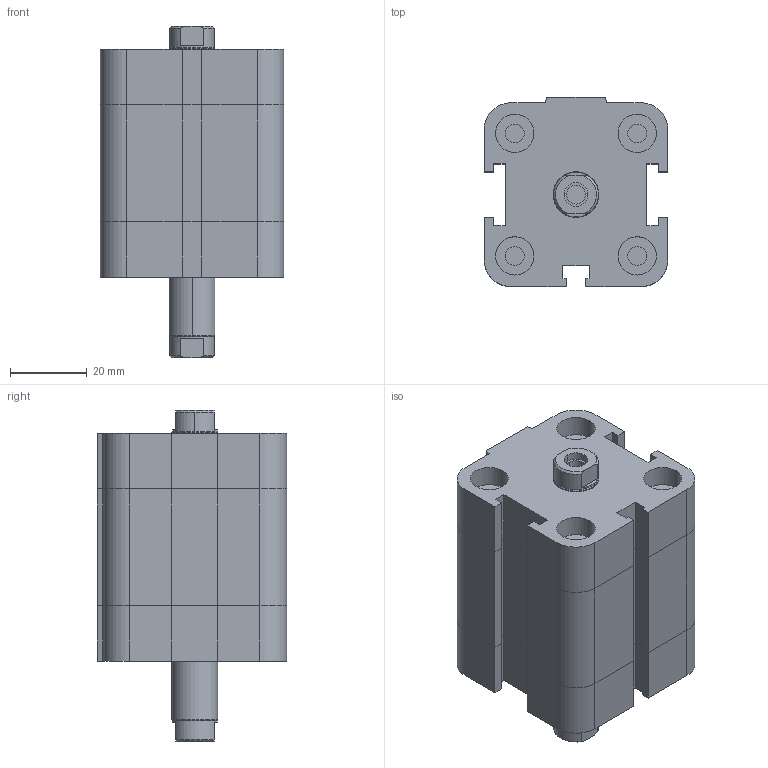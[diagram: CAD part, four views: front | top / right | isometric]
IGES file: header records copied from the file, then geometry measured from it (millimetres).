
Global section: file name: No Iges File Name specified; native system: Autodesk Inventor 2009; preprocessor: AutoDesk Inventor Iges Exporter R2009; author: maffial1; date: 20090420.200524; units: millimetre
Bounding box: 48 x 49.5 x 86.5 mm (x, y, z)
Volume: 120813.2 mm3; surface area: 27332.8 mm2
Topology: 2 solids, 2 shells, 202 faces, 450 edges, 274 vertices
Faces by surface type: plane 114, bspline 42, revolution 20, cylinder 18, cone 8
